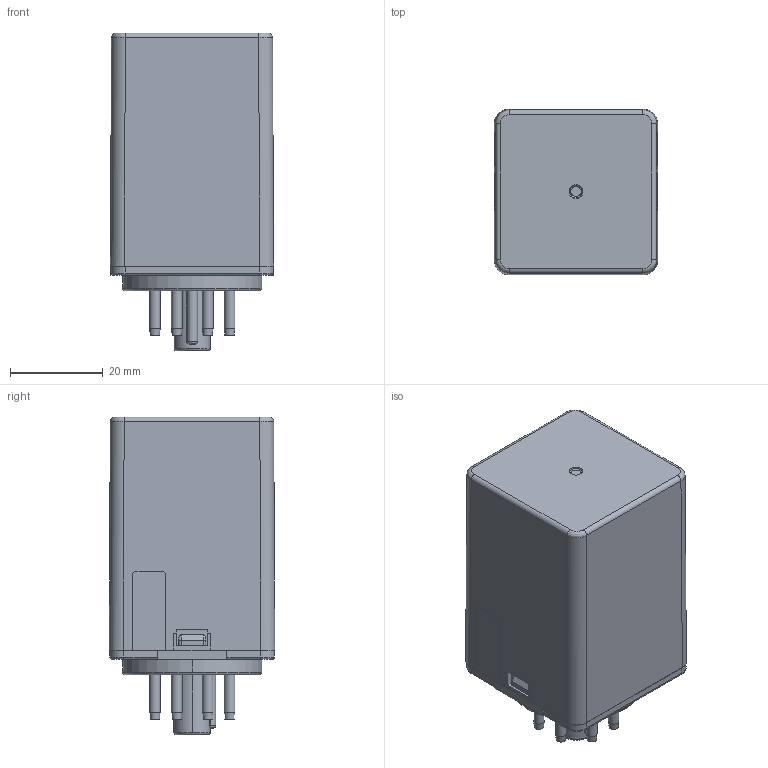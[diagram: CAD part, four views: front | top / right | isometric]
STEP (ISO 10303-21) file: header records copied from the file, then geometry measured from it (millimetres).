
FILE_DESCRIPTION(/* description */ (''),/* implementation_level */ '2;1');
FILE_NAME(/* name */ 'HF10FF_stp.stp',/* time_stamp */ '2019-01-07T20:15:40+08:00',/* author */ (''),/* organization */ (''),/* preprocessor_version */ 'ST-DEVELOPER v15',/* originating_system */ 'SIEMENS PLM Software NX 8.5',/* authorisation */ '');
FILE_SCHEMA (('CONFIG_CONTROL_DESIGN'));
Length unit declared in the file: millimetre
Products named in the file (5): 77550617000_c; 80710156000_b; 61210627000_a; 56701877000_a; 45201795000_a_stp
Assembly tree (11 placements, depth 4):
  45201795000_a_stp
    56701877000_a
      61210627000_a
        80710156000_b
        77550617000_c  x8
Bounding box: 35.2 x 35.7 x 68.6 mm (x, y, z)
Volume: 22553.6 mm3; surface area: 28188.6 mm2
Topology: 10 solids, 12 shells, 1601 faces, 3890 edges, 2329 vertices
Faces by surface type: plane 727, cylinder 568, torus 131, sphere 67, bspline 67, cone 29, extrusion 12
Full cylindrical faces by diameter (mm): 1.8 x16, 2.3 x16, 4.6 x16, 5 x1
Entity records: 45905 total; most frequent: CARTESIAN_POINT 9155, DIRECTION 7736, ORIENTED_EDGE 7372, EDGE_CURVE 3686, AXIS2_PLACEMENT_3D 2729, VECTOR 2278, VERTEX_POINT 2275, LINE 2266
